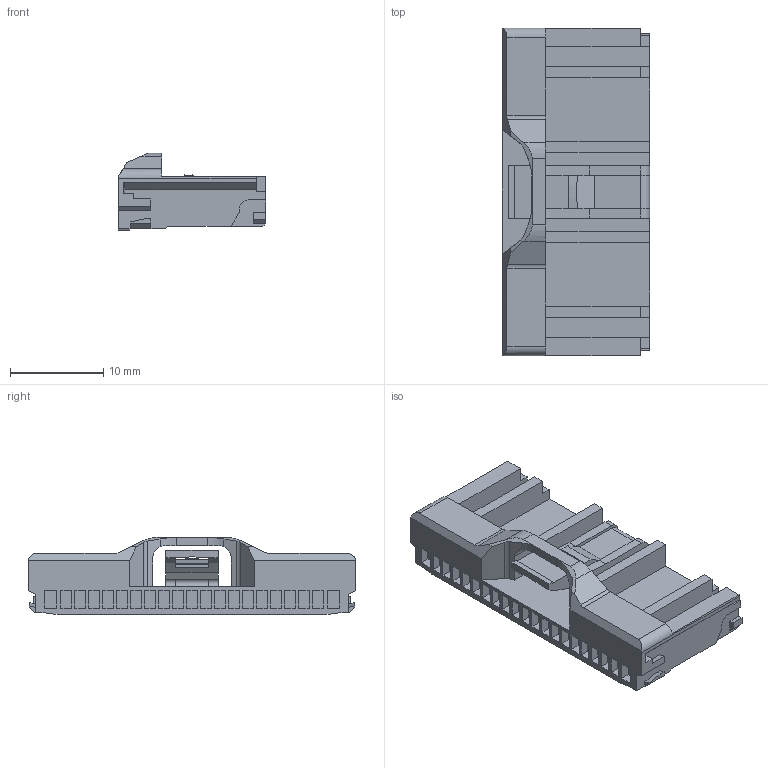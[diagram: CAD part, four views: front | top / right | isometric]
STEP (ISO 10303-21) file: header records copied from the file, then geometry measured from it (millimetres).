
FILE_DESCRIPTION(('CATIA V5 STEP','CAx-IF Rec.Pracs.--- Model Styling and Organization---1.5--- 2016-08-15','CAx-IF Rec.Pracs.---Supplemental Geometry---1.0---2011-11-01','CAx-IF Rec.Pracs.--- Composite Materials ---1.1---2010-07-15'),'2;1');
FILE_NAME('C:\Users\0120140016\Desktop\カタログ3D\42WAY\6099-0057(HE020-42F-U-LGR).stp','2024-09-25T03:27:25+00:00',('none'),('none'),'CATIA Version 5-6 Release 2022 SP2 HF23','CATIA V5 STEP AP214 v2','none');
FILE_SCHEMA(('AUTOMOTIVE_DESIGN { 1 0 10303 214 1 1 1 1 }'));
Length unit declared in the file: millimetre
Products named in the file (1): UJX279_42F_UPPER_HSG.1.1.2
Bounding box: 15.8 x 35.15 x 8.3 mm (x, y, z)
Volume: 2098.3 mm3; surface area: 2498.8 mm2
Topology: 1 solids, 1 shells, 378 faces, 1009 edges, 671 vertices
Faces by surface type: plane 349, cylinder 28, extrusion 1
Entity records: 10825 total; most frequent: ORIENTED_EDGE 2018, CARTESIAN_POINT 2009, DIRECTION 1431, EDGE_CURVE 1009, VECTOR 942, LINE 941, VERTEX_POINT 671, EDGE_LOOP 420
